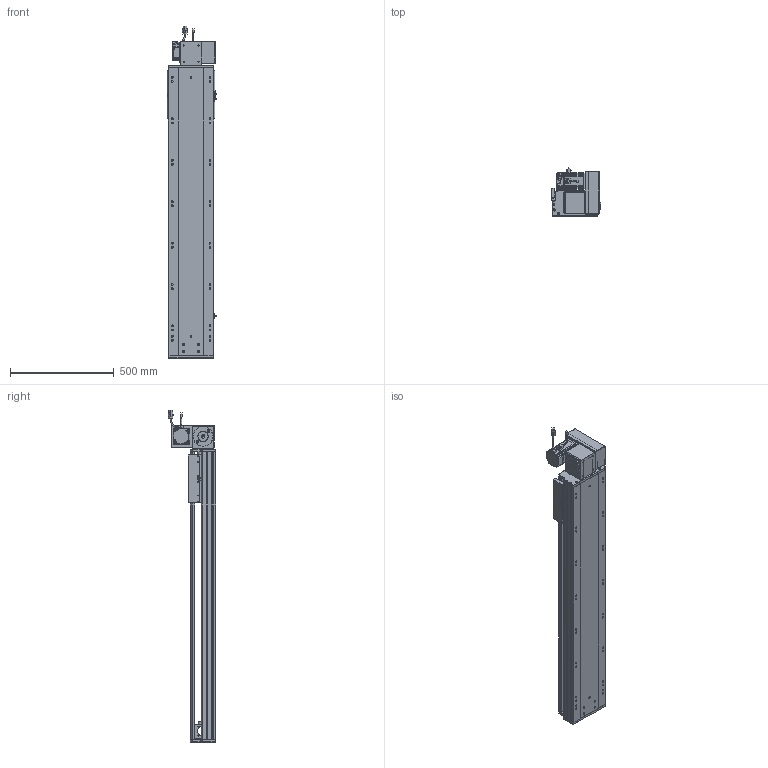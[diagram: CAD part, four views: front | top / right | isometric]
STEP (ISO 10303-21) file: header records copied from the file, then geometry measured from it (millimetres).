
FILE_DESCRIPTION (( 'STEP AP203' ), '1' );
FILE_NAME ('RY220-T-300-UR.SLDASM_1050.step', '2022-07-25T08:43:24', ( '' ), ( '' ), 'SwSTEP 2.0', 'SolidWorks 2016', '' );
FILE_SCHEMA (( 'CONFIG_CONTROL_DESIGN' ));
Length unit declared in the file: millimetre
Products named in the file (14): RY220-俋离672覜茼んえ; RY220-T-湍謫欶(鍼踢); 110A-T-肮祭謫釱傷裔; RY220-T-蛌殏萇儂假蚾啣(750W); 怢湛750W_ECMA-CX0807ES; RY220-T菁釱-300_1050; RY220-T-300-UR.SLDASM_1050; RY220翋肮祭謫裔啣; RY220-同步轮副支撑座6304×2; 覜茼ん672; RY220圉猾敕々湍臏賑輸; 滅袉蝶18-15; RY220-T-300-奻裔啣_1050; RY220翋肮祭謫釱
Assembly tree (18 placements, depth 2):
  RY220-T-300-UR.SLDASM_1050
    RY220-T菁釱-300_1050
    RY220翋肮祭謫釱
    覜茼ん672  x3
    RY220圉猾敕々湍臏賑輸
    RY220-T-300-奻裔啣_1050
    RY220-俋离672覜茼んえ
    滅袉蝶18-15  x3
    RY220翋肮祭謫裔啣  x2
    110A-T-肮祭謫釱傷裔
    怢湛750W_ECMA-CX0807ES
    RY220-T-湍謫欶(鍼踢)
    RY220-T-蛌殏萇儂假蚾啣(750W)
    RY220-同步轮副支撑座6304×2
Bounding box: 238.7 x 231.74 x 1603.27 mm (x, y, z)
Volume: 12580249.4 mm3; surface area: 3686665.4 mm2
Topology: 19 solids, 19 shells, 2646 faces, 7303 edges, 4632 vertices
Faces by surface type: cylinder 1242, plane 1069, cone 253, bspline 56, sphere 16, torus 10
Entity records: 88083 total; most frequent: CARTESIAN_POINT 25133, ORIENTED_EDGE 13082, DIRECTION 12368, EDGE_CURVE 6541, AXIS2_PLACEMENT_3D 4376, VERTEX_POINT 4256, LINE 3616, VECTOR 3616
